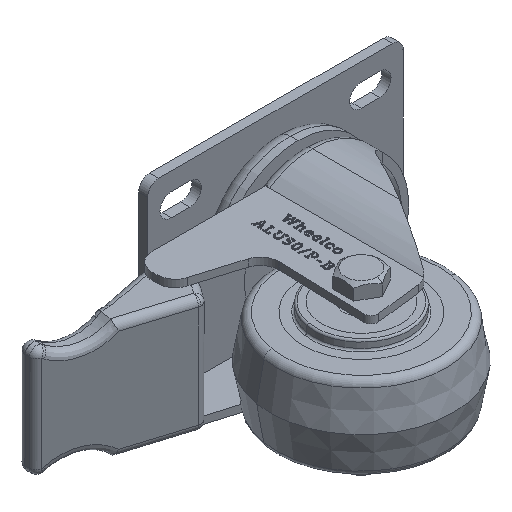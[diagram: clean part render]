
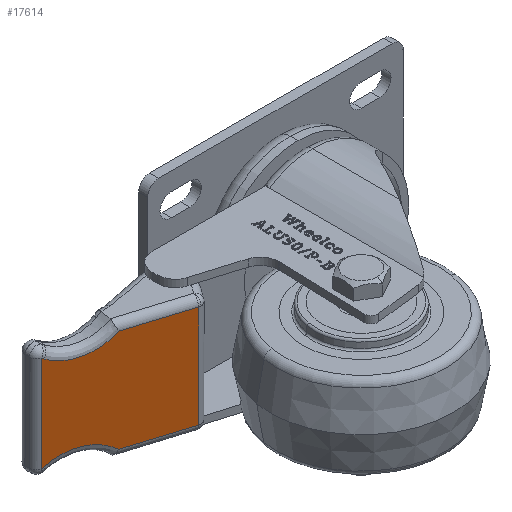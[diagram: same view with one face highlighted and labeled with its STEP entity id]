
A CAD part, isometric view. The second image highlights one B-rep face of the part: STEP entity #17614.
In plain terms, the highlighted planar face has unit normal (-0.294, -0.956, 0.001) as drawn and (0.295, 0.956, 0) by its records, which use the part's own axes.
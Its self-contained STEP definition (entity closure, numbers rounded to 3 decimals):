
#1167 = EDGE_CURVE ( 'NONE', #19549, #1921, #10786, .T. ) ;
#1275 = DIRECTION ( 'NONE',  ( -0.295, -0.956, 0. ) ) ;
#1352 = VERTEX_POINT ( 'NONE', #13383 ) ;
#1433 = EDGE_CURVE ( 'NONE', #1921, #1352, #19486, .T. ) ;
#1643 = CARTESIAN_POINT ( 'NONE',  ( 78.259, 7.537, 12.964 ) ) ;
#1921 = VERTEX_POINT ( 'NONE', #11452 ) ;
#2020 = LINE ( 'NONE', #22147, #18040 ) ;
#2094 = CARTESIAN_POINT ( 'NONE',  ( 44.306, 18., 14. ) ) ;
#2157 = LINE ( 'NONE', #22830, #12184 ) ;
#2197 = CARTESIAN_POINT ( 'NONE',  ( 78.1, 7.586, 12.855 ) ) ;
#2836 = CARTESIAN_POINT ( 'NONE',  ( 78.1, 7.586, 12.855 ) ) ;
#4070 = VERTEX_POINT ( 'NONE', #8234 ) ;
#4417 = DIRECTION ( 'NONE',  ( 0., 0., -1. ) ) ;
#4574 = ORIENTED_EDGE ( 'NONE', *, *, #16202, .T. ) ;
#4604 = CARTESIAN_POINT ( 'NONE',  ( 66.99, 11.009, -9.839 ) ) ;
#5009 = CARTESIAN_POINT ( 'NONE',  ( 62.441, 12.411, -14. ) ) ;
#5347 = VERTEX_POINT ( 'NONE', #19853 ) ;
#5576 = CARTESIAN_POINT ( 'NONE',  ( 44.306, 18., -60.577 ) ) ;
#6075 = CARTESIAN_POINT ( 'NONE',  ( 78.422, 7.486, 13.067 ) ) ;
#6719 = CARTESIAN_POINT ( 'NONE',  ( 78.589, 7.435, -60.577 ) ) ;
#6781 = CARTESIAN_POINT ( 'NONE',  ( 78.1, 7.586, -12.855 ) ) ;
#7340 = EDGE_CURVE ( 'NONE', #1352, #15755, #2020, .T. ) ;
#8213 = ORIENTED_EDGE ( 'NONE', *, *, #15314, .T. ) ;
#8234 = CARTESIAN_POINT ( 'NONE',  ( 62.441, 12.411, 14. ) ) ;
#8265 = CARTESIAN_POINT ( 'NONE',  ( 62.441, 12.411, 14. ) ) ;
#8285 = DIRECTION ( 'NONE',  ( 0.956, -0.295, 0. ) ) ;
#9618 = FACE_OUTER_BOUND ( 'NONE', #26468, .T. ) ;
#10364 = ORIENTED_EDGE ( 'NONE', *, *, #1167, .T. ) ;
#10786 = B_SPLINE_CURVE_WITH_KNOTS ( 'NONE', 3,
 ( #23452, #11389, #25867, #25725 ),
 .UNSPECIFIED., .F., .F.,
 ( 4, 4 ),
 ( 0., 0.001 ),
 .UNSPECIFIED. ) ;
#11302 = ORIENTED_EDGE ( 'NONE', *, *, #23782, .T. ) ;
#11389 = CARTESIAN_POINT ( 'NONE',  ( 78.422, 7.486, -13.067 ) ) ;
#11452 = CARTESIAN_POINT ( 'NONE',  ( 78.1, 7.586, -12.855 ) ) ;
#11853 = DIRECTION ( 'NONE',  ( -0.956, 0.295, 0. ) ) ;
#12184 = VECTOR ( 'NONE', #12648, 1000. ) ;
#12648 = DIRECTION ( 'NONE',  ( 0., 0., 1. ) ) ;
#12701 = CARTESIAN_POINT ( 'NONE',  ( 73.035, 9.146, 9.398 ) ) ;
#12944 = B_SPLINE_CURVE_WITH_KNOTS ( 'NONE', 3,
 ( #20279, #1643, #6075, #15962 ),
 .UNSPECIFIED., .F., .F.,
 ( 4, 4 ),
 ( 0., 0.001 ),
 .UNSPECIFIED. ) ;
#13131 = CARTESIAN_POINT ( 'NONE',  ( 78.589, 7.435, 13.163 ) ) ;
#13383 = CARTESIAN_POINT ( 'NONE',  ( 62.441, 12.411, -14. ) ) ;
#15314 = EDGE_CURVE ( 'NONE', #15755, #5347, #2157, .T. ) ;
#15755 = VERTEX_POINT ( 'NONE', #26569 ) ;
#15962 = CARTESIAN_POINT ( 'NONE',  ( 78.589, 7.435, 13.163 ) ) ;
#16202 = EDGE_CURVE ( 'NONE', #5347, #4070, #20583, .T. ) ;
#16622 = VECTOR ( 'NONE', #4417, 1000. ) ;
#17352 = VERTEX_POINT ( 'NONE', #13131 ) ;
#17614 = ADVANCED_FACE ( 'NONE', ( #9618 ), #22350, .F. ) ;
#18040 = VECTOR ( 'NONE', #11853, 1000. ) ;
#18935 = CARTESIAN_POINT ( 'NONE',  ( 66.99, 11.009, 9.839 ) ) ;
#19486 =( BOUNDED_CURVE ( )  B_SPLINE_CURVE ( 3, ( #6781, #21230, #4604, #5009 ),
 .UNSPECIFIED., .F., .F. ) 
 B_SPLINE_CURVE_WITH_KNOTS ( ( 4, 4 ),
 ( 0.99, 2.293 ),
 .UNSPECIFIED. ) 
 CURVE ( )  GEOMETRIC_REPRESENTATION_ITEM ( )  RATIONAL_B_SPLINE_CURVE ( ( 1., 0.863, 0.863, 1. ) ) 
 REPRESENTATION_ITEM ( '' )  );
#19549 = VERTEX_POINT ( 'NONE', #21162 ) ;
#19853 = CARTESIAN_POINT ( 'NONE',  ( 45.68, 17.576, 14. ) ) ;
#20279 = CARTESIAN_POINT ( 'NONE',  ( 78.1, 7.586, 12.855 ) ) ;
#20440 = EDGE_CURVE ( 'NONE', #22893, #17352, #12944, .T. ) ;
#20583 = LINE ( 'NONE', #2094, #23455 ) ;
#21162 = CARTESIAN_POINT ( 'NONE',  ( 78.589, 7.435, -13.163 ) ) ;
#21230 = CARTESIAN_POINT ( 'NONE',  ( 73.035, 9.146, -9.398 ) ) ;
#21927 = DIRECTION ( 'NONE',  ( 0.956, -0.295, 0. ) ) ;
#22147 = CARTESIAN_POINT ( 'NONE',  ( 44.306, 18., -14. ) ) ;
#22350 = PLANE ( 'NONE',  #24362 ) ;
#22351 = EDGE_CURVE ( 'NONE', #17352, #19549, #22957, .T. ) ;
#22830 = CARTESIAN_POINT ( 'NONE',  ( 45.68, 17.576, -60.577 ) ) ;
#22893 = VERTEX_POINT ( 'NONE', #2836 ) ;
#22957 = LINE ( 'NONE', #6719, #16622 ) ;
#23266 = ORIENTED_EDGE ( 'NONE', *, *, #20440, .T. ) ;
#23452 = CARTESIAN_POINT ( 'NONE',  ( 78.589, 7.435, -13.163 ) ) ;
#23455 = VECTOR ( 'NONE', #8285, 1000. ) ;
#23782 = EDGE_CURVE ( 'NONE', #4070, #22893, #25930, .T. ) ;
#23924 = ORIENTED_EDGE ( 'NONE', *, *, #1433, .T. ) ;
#24362 = AXIS2_PLACEMENT_3D ( 'NONE', #5576, #1275, #21927 ) ;
#25493 = ORIENTED_EDGE ( 'NONE', *, *, #7340, .T. ) ;
#25725 = CARTESIAN_POINT ( 'NONE',  ( 78.1, 7.586, -12.855 ) ) ;
#25867 = CARTESIAN_POINT ( 'NONE',  ( 78.259, 7.537, -12.964 ) ) ;
#25930 =( BOUNDED_CURVE ( )  B_SPLINE_CURVE ( 3, ( #8265, #18935, #12701, #2197 ),
 .UNSPECIFIED., .F., .F. ) 
 B_SPLINE_CURVE_WITH_KNOTS ( ( 4, 4 ),
 ( 3.991, 5.294 ),
 .UNSPECIFIED. ) 
 CURVE ( )  GEOMETRIC_REPRESENTATION_ITEM ( )  RATIONAL_B_SPLINE_CURVE ( ( 1., 0.863, 0.863, 1. ) ) 
 REPRESENTATION_ITEM ( '' )  );
#26067 = ORIENTED_EDGE ( 'NONE', *, *, #22351, .T. ) ;
#26468 = EDGE_LOOP ( 'NONE', ( #26067, #10364, #23924, #25493, #8213, #4574, #11302, #23266 ) ) ;
#26569 = CARTESIAN_POINT ( 'NONE',  ( 45.68, 17.576, -14. ) ) ;
